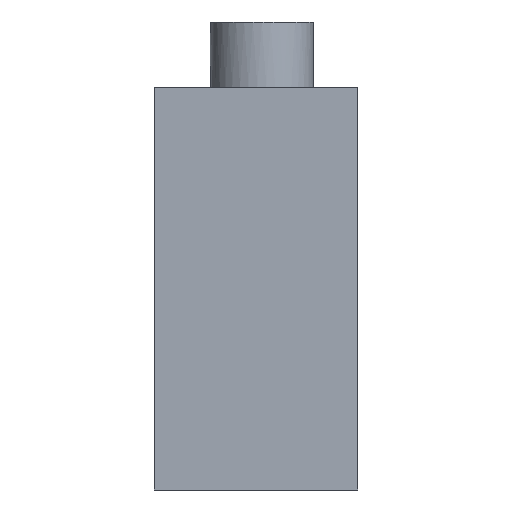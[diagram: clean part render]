
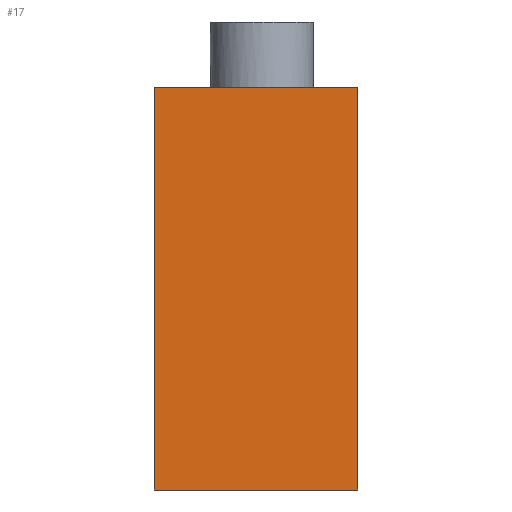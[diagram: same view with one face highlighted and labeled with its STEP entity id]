
A CAD part, left-side view. The second image highlights one B-rep face of the part: STEP entity #17.
In plain terms, the highlighted planar face has unit normal (-1, 0, 0).
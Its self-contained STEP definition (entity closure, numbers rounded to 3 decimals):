
#17 = ADVANCED_FACE('',(#18),#32,.F.);
#18 = FACE_BOUND('',#19,.F.);
#19 = EDGE_LOOP('',(#20,#53,#81,#109));
#20 = ORIENTED_EDGE('',*,*,#21,.F.);
#21 = EDGE_CURVE('',#22,#24,#26,.T.);
#22 = VERTEX_POINT('',#23);
#23 = CARTESIAN_POINT('',(-66.,80.5,592.));
#24 = VERTEX_POINT('',#25);
#25 = CARTESIAN_POINT('',(-66.,80.5,678.));
#26 = SURFACE_CURVE('',#27,(#31,#42),.PCURVE_S1.);
#27 = LINE('',#28,#29);
#28 = CARTESIAN_POINT('',(-66.,80.5,296.));
#29 = VECTOR('',#30,1.);
#30 = DIRECTION('',(0.,0.,1.));
#31 = PCURVE('',#32,#37);
#32 = PLANE('',#33);
#33 = AXIS2_PLACEMENT_3D('',#34,#35,#36);
#34 = CARTESIAN_POINT('',(-66.,78.,592.));
#35 = DIRECTION('',(1.,0.,-0.));
#36 = DIRECTION('',(0.,0.,1.));
#37 = DEFINITIONAL_REPRESENTATION('',(#38),#41);
#38 = B_SPLINE_CURVE_WITH_KNOTS('',1,(#39,#40),.UNSPECIFIED.,.F.,.F.,(2,
    2),(296.,382.),.PIECEWISE_BEZIER_KNOTS.);
#39 = CARTESIAN_POINT('',(0.,-2.5));
#40 = CARTESIAN_POINT('',(86.,-2.5));
#41 = ( GEOMETRIC_REPRESENTATION_CONTEXT(2) 
PARAMETRIC_REPRESENTATION_CONTEXT() REPRESENTATION_CONTEXT('2D SPACE',''
  ) );
#42 = PCURVE('',#43,#48);
#43 = PLANE('',#44);
#44 = AXIS2_PLACEMENT_3D('',#45,#46,#47);
#45 = CARTESIAN_POINT('',(-400.,80.5,0.));
#46 = DIRECTION('',(-0.,1.,0.));
#47 = DIRECTION('',(0.,0.,1.));
#48 = DEFINITIONAL_REPRESENTATION('',(#49),#52);
#49 = B_SPLINE_CURVE_WITH_KNOTS('',1,(#50,#51),.UNSPECIFIED.,.F.,.F.,(2,
    2),(296.,382.),.PIECEWISE_BEZIER_KNOTS.);
#50 = CARTESIAN_POINT('',(592.,334.));
#51 = CARTESIAN_POINT('',(678.,334.));
#52 = ( GEOMETRIC_REPRESENTATION_CONTEXT(2) 
PARAMETRIC_REPRESENTATION_CONTEXT() REPRESENTATION_CONTEXT('2D SPACE',''
  ) );
#53 = ORIENTED_EDGE('',*,*,#54,.T.);
#54 = EDGE_CURVE('',#22,#55,#57,.T.);
#55 = VERTEX_POINT('',#56);
#56 = CARTESIAN_POINT('',(-66.,124.,592.));
#57 = SURFACE_CURVE('',#58,(#62,#69),.PCURVE_S1.);
#58 = LINE('',#59,#60);
#59 = CARTESIAN_POINT('',(-66.,78.,592.));
#60 = VECTOR('',#61,1.);
#61 = DIRECTION('',(-0.,1.,0.));
#62 = PCURVE('',#32,#63);
#63 = DEFINITIONAL_REPRESENTATION('',(#64),#68);
#64 = LINE('',#65,#66);
#65 = CARTESIAN_POINT('',(0.,0.));
#66 = VECTOR('',#67,1.);
#67 = DIRECTION('',(0.,-1.));
#68 = ( GEOMETRIC_REPRESENTATION_CONTEXT(2) 
PARAMETRIC_REPRESENTATION_CONTEXT() REPRESENTATION_CONTEXT('2D SPACE',''
  ) );
#69 = PCURVE('',#70,#75);
#70 = PLANE('',#71);
#71 = AXIS2_PLACEMENT_3D('',#72,#73,#74);
#72 = CARTESIAN_POINT('',(-66.,78.,592.));
#73 = DIRECTION('',(0.,0.,1.));
#74 = DIRECTION('',(1.,0.,-0.));
#75 = DEFINITIONAL_REPRESENTATION('',(#76),#80);
#76 = LINE('',#77,#78);
#77 = CARTESIAN_POINT('',(0.,0.));
#78 = VECTOR('',#79,1.);
#79 = DIRECTION('',(0.,1.));
#80 = ( GEOMETRIC_REPRESENTATION_CONTEXT(2) 
PARAMETRIC_REPRESENTATION_CONTEXT() REPRESENTATION_CONTEXT('2D SPACE',''
  ) );
#81 = ORIENTED_EDGE('',*,*,#82,.T.);
#82 = EDGE_CURVE('',#55,#83,#85,.T.);
#83 = VERTEX_POINT('',#84);
#84 = CARTESIAN_POINT('',(-66.,124.,678.));
#85 = SURFACE_CURVE('',#86,(#90,#97),.PCURVE_S1.);
#86 = LINE('',#87,#88);
#87 = CARTESIAN_POINT('',(-66.,124.,592.));
#88 = VECTOR('',#89,1.);
#89 = DIRECTION('',(0.,0.,1.));
#90 = PCURVE('',#32,#91);
#91 = DEFINITIONAL_REPRESENTATION('',(#92),#96);
#92 = LINE('',#93,#94);
#93 = CARTESIAN_POINT('',(0.,-46.));
#94 = VECTOR('',#95,1.);
#95 = DIRECTION('',(1.,0.));
#96 = ( GEOMETRIC_REPRESENTATION_CONTEXT(2) 
PARAMETRIC_REPRESENTATION_CONTEXT() REPRESENTATION_CONTEXT('2D SPACE',''
  ) );
#97 = PCURVE('',#98,#103);
#98 = PLANE('',#99);
#99 = AXIS2_PLACEMENT_3D('',#100,#101,#102);
#100 = CARTESIAN_POINT('',(-66.,124.,592.));
#101 = DIRECTION('',(-0.,1.,0.));
#102 = DIRECTION('',(0.,0.,1.));
#103 = DEFINITIONAL_REPRESENTATION('',(#104),#108);
#104 = LINE('',#105,#106);
#105 = CARTESIAN_POINT('',(0.,0.));
#106 = VECTOR('',#107,1.);
#107 = DIRECTION('',(1.,0.));
#108 = ( GEOMETRIC_REPRESENTATION_CONTEXT(2) 
PARAMETRIC_REPRESENTATION_CONTEXT() REPRESENTATION_CONTEXT('2D SPACE',''
  ) );
#109 = ORIENTED_EDGE('',*,*,#110,.F.);
#110 = EDGE_CURVE('',#24,#83,#111,.T.);
#111 = SURFACE_CURVE('',#112,(#116,#123),.PCURVE_S1.);
#112 = LINE('',#113,#114);
#113 = CARTESIAN_POINT('',(-66.,78.,678.));
#114 = VECTOR('',#115,1.);
#115 = DIRECTION('',(-0.,1.,0.));
#116 = PCURVE('',#32,#117);
#117 = DEFINITIONAL_REPRESENTATION('',(#118),#122);
#118 = LINE('',#119,#120);
#119 = CARTESIAN_POINT('',(86.,0.));
#120 = VECTOR('',#121,1.);
#121 = DIRECTION('',(0.,-1.));
#122 = ( GEOMETRIC_REPRESENTATION_CONTEXT(2) 
PARAMETRIC_REPRESENTATION_CONTEXT() REPRESENTATION_CONTEXT('2D SPACE',''
  ) );
#123 = PCURVE('',#124,#129);
#124 = PLANE('',#125);
#125 = AXIS2_PLACEMENT_3D('',#126,#127,#128);
#126 = CARTESIAN_POINT('',(-66.,78.,678.));
#127 = DIRECTION('',(0.,0.,1.));
#128 = DIRECTION('',(1.,0.,-0.));
#129 = DEFINITIONAL_REPRESENTATION('',(#130),#134);
#130 = LINE('',#131,#132);
#131 = CARTESIAN_POINT('',(0.,0.));
#132 = VECTOR('',#133,1.);
#133 = DIRECTION('',(0.,1.));
#134 = ( GEOMETRIC_REPRESENTATION_CONTEXT(2) 
PARAMETRIC_REPRESENTATION_CONTEXT() REPRESENTATION_CONTEXT('2D SPACE',''
  ) );
